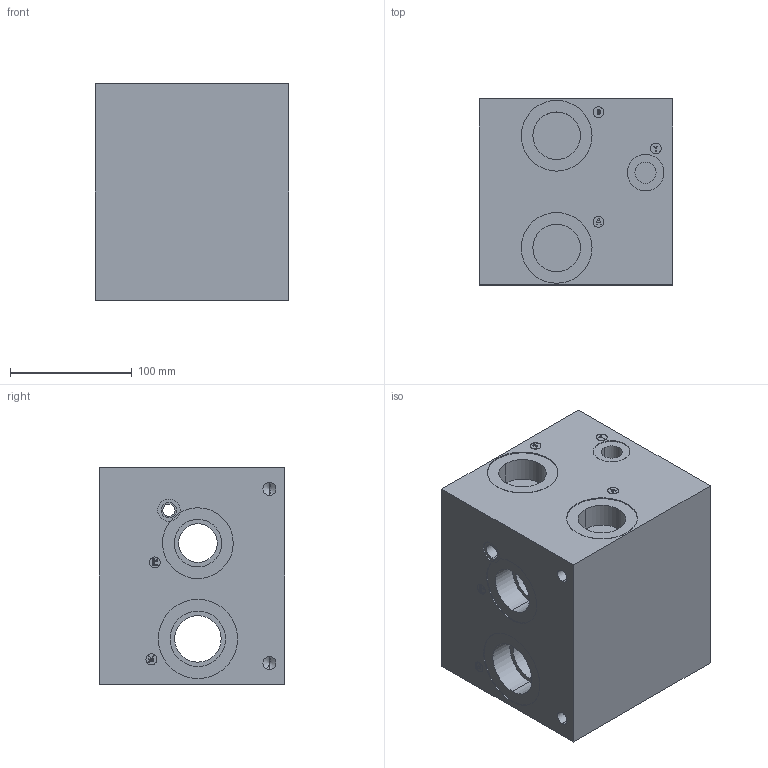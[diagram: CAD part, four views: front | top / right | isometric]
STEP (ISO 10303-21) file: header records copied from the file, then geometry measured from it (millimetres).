
FILE_DESCRIPTION (( 'STEP AP203' ), '1' );
FILE_NAME ('BMR-AHP08S5-01-1_Z.STEP', '2015-01-06T16:23:53', ( '' ), ( '' ), 'SwSTEP 2.0', 'SolidWorks 2014', '' );
FILE_SCHEMA (( 'CONFIG_CONTROL_DESIGN' ));
Length unit declared in the file: inch
Products named in the file (1): BMR-AHP08S5-01-1_Z
Bounding box: 158.75 x 152.4 x 177.8 mm (x, y, z)
Volume: 3842440.8 mm3; surface area: 215415.2 mm2
Topology: 1 solids, 1 shells, 333 faces, 808 edges, 506 vertices
Faces by surface type: plane 160, cylinder 108, cone 36, bspline 29
Entity records: 11251 total; most frequent: CARTESIAN_POINT 3537, ORIENTED_EDGE 1544, DIRECTION 1544, EDGE_CURVE 772, AXIS2_PLACEMENT_3D 525, VERTEX_POINT 506, VECTOR 494, LINE 494
